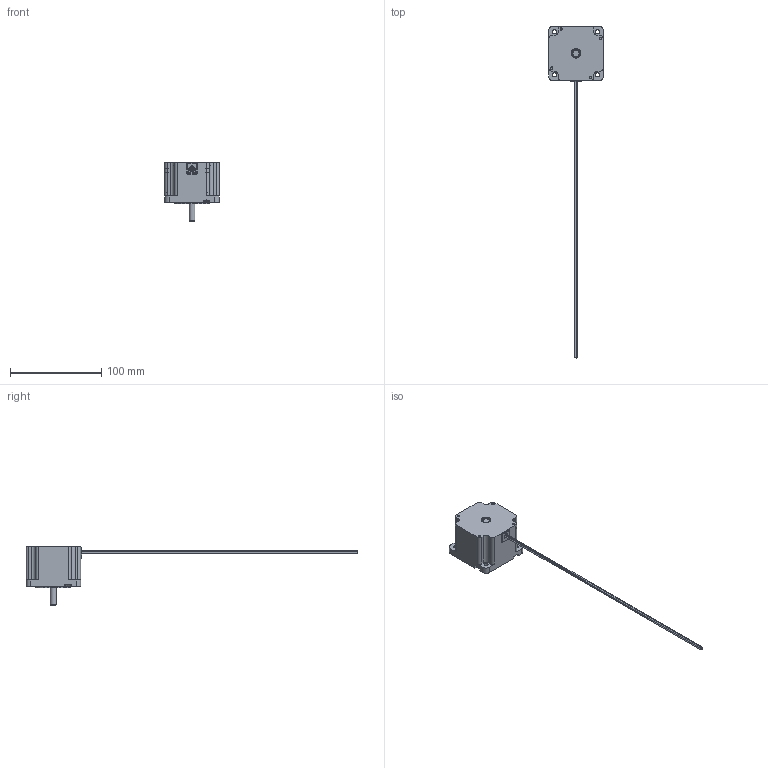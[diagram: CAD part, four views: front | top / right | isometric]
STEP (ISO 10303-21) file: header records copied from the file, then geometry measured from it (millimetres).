
FILE_DESCRIPTION((''),'2;1');
FILE_NAME('L:\3D ipt part for Web\Standard Motor\5818 Model\5818X-XX.stp','2010-05-26T10:02:58',('hpham'),(''),'Autodesk Inventor 2010','Autodesk Inventor 2010','');
FILE_SCHEMA(('AUTOMOTIVE_DESIGN { 1 0 10303 214 1 1 1 1 }'));
Length unit declared in the file: inch
Products named in the file (1): 5818X-XX
Bounding box: 60 x 364.8 x 63.97 mm (x, y, z)
Volume: 4247.1 mm3; surface area: 59504.9 mm2
Topology: 13 solids, 14 shells, 1238 faces, 4179 edges, 2757 vertices
Faces by surface type: plane 620, cylinder 553, bspline 38, torus 14, cone 13
Full cylindrical faces by diameter (mm): 1.27 x4, 2.997 x4, 3.302 x8, 3.4 x4, 4.5 x2, 5 x1, 5.5 x4, 6.35 x1, 7.7 x2, 8 x4, 10 x2, 10.5 x2, 12.05 x8, 13 x1, 17.95 x8, 18 x2, 22 x4, 32 x1, 38.1 x1, 39.09 x2, 39.6 x2
Entity records: 48345 total; most frequent: CARTESIAN_POINT 9979, ORIENTED_EDGE 8070, DIRECTION 7846, EDGE_CURVE 4035, AXIS2_PLACEMENT_3D 2734, VERTEX_POINT 2717, VECTOR 2378, LINE 2378
